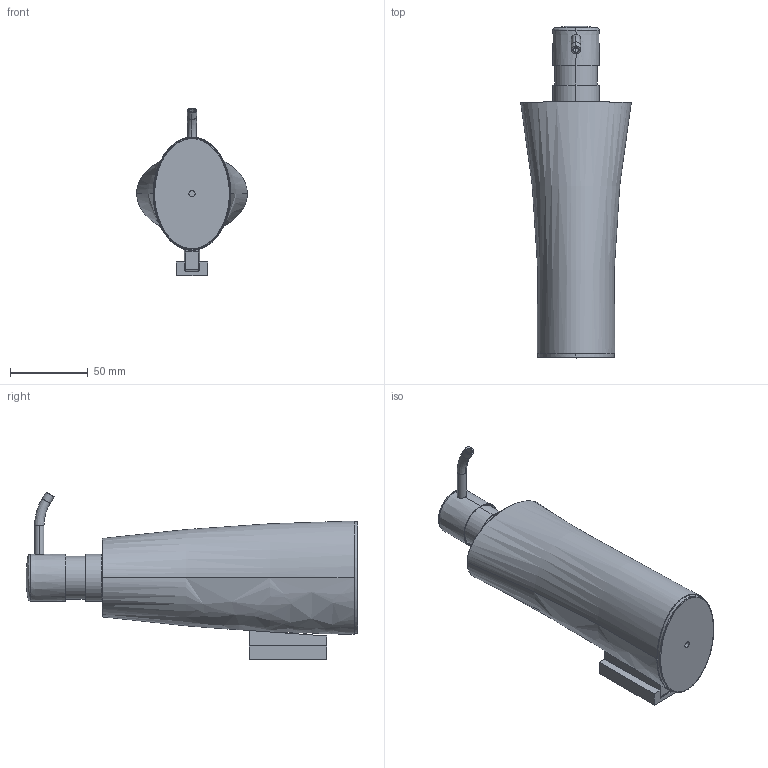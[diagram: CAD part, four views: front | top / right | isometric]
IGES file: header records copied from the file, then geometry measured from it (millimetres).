
Start section: SolidWorks IGES file using analytic representation for surfaces
Global section: file name: G:\Projects\New project\For Marketing\IGS\IGS\2015-12-25\767801318VW.IGS; native system: SolidWorks 2010; preprocessor: SolidWorks 2010; author: linda; date: 151216.095358; units: millimetre
Bounding box: 71.1 x 213.4 x 107.97 mm (x, y, z)
Surface area: 52803 mm2 (no closed solid volume)
Topology: 0 solids, 0 shells, 95 faces, 1607 edges, 1607 vertices
Faces by surface type: bspline 54, revolution 41
